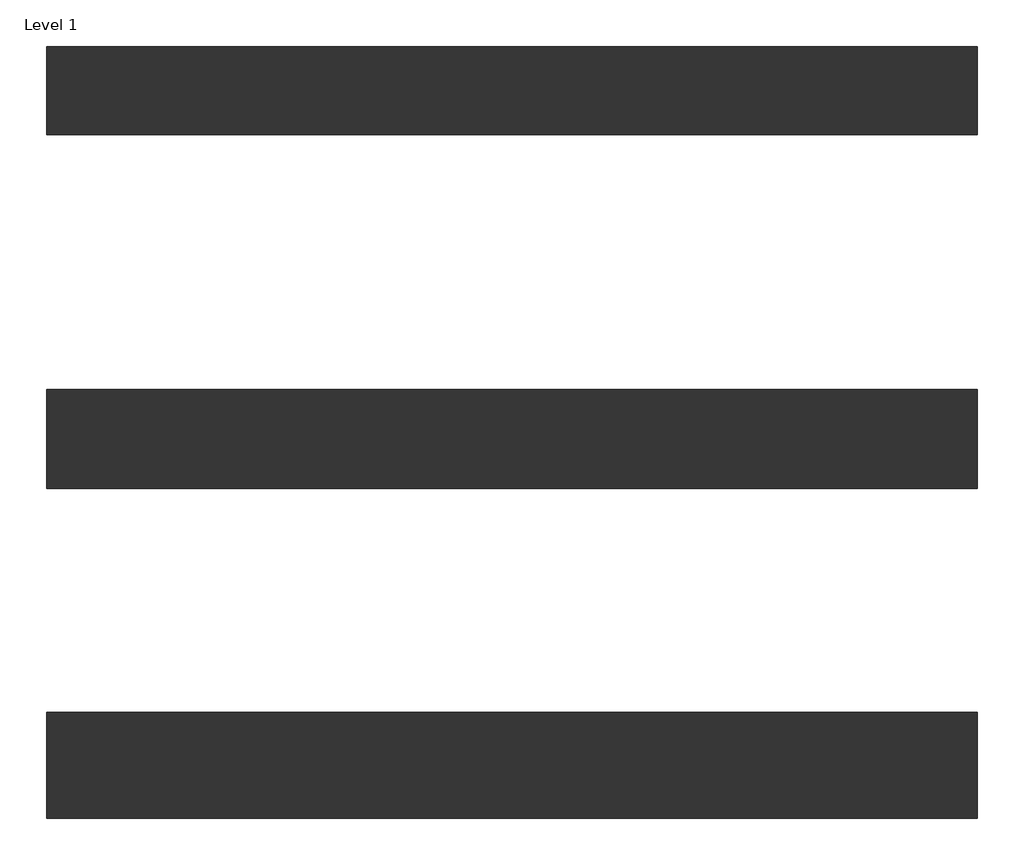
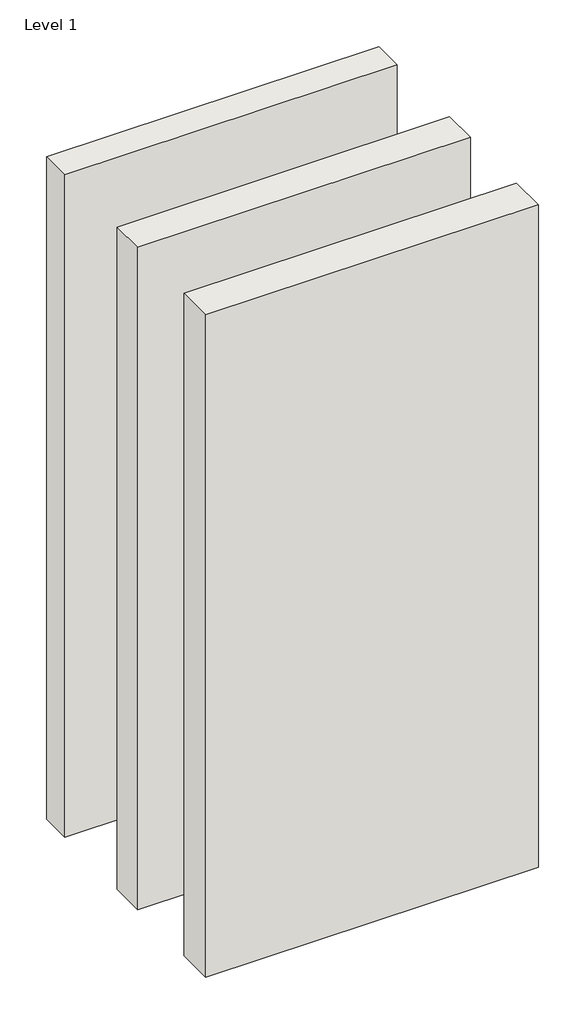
# One storey: 3 walls.
"""IFC4 building model written with IfcOpenShell, lengths in millimetres."""

from ifc_helpers import new_model, si_unit, origin, origin_with_axes, place, context, project, spatial, polyline, outline, extrude, element, save

model = new_model("IFC4")

# Units and contexts
model_context = context("Model", 3, world=origin())
ifc_project = project(units=[si_unit("LENGTHUNIT", "METRE", prefix="MILLI")], contexts=[model_context])

# Site, building, storey
site = spatial("IfcSite", under=ifc_project)
building = spatial("IfcBuilding", under=site)
storey = spatial("IfcBuildingStorey", under=building, Name="Level 1", Elevation=0.0)

# Walls
placement = place(None, origin())
element("IfcWall", 1, ObjectType="Interior-Steel Frame-SecurityWall-CSR1640-180mm", at=placement, inside=storey, context=model_context, shape_type="SweptSolid", body=[
    extrude(outline(polyline([(-689.6552429, -567.2346677), (1210.3447571, -567.2346677), (1210.3447571, -747.2346677), (-689.6552429, -747.2346677), (-689.6552429, -567.2346677)])), origin_with_axes(), (0.0, 0.0, 1.0), 4000.0),
])
element("IfcWall", 2, ObjectType="Interior-Steel Frame-SecurityWall-CSR295-203mm", at=placement, inside=storey, context=model_context, shape_type="SweptSolid", body=[
    extrude(outline(polyline([(-689.6552429, -1267.2346677), (1210.3447571, -1267.2346677), (1210.3447571, -1470.2346677), (-689.6552429, -1470.2346677), (-689.6552429, -1267.2346677)])), origin_with_axes(), (0.0, 0.0, 1.0), 4000.0),
])
element("IfcWall", 3, ObjectType="Interior-Steel Frame-SecurityWall-CSR1640-216mm", at=placement, inside=storey, context=model_context, shape_type="SweptSolid", body=[
    extrude(outline(polyline([(-689.6552429, -1927.2346677), (1210.3447571, -1927.2346677), (1210.3447571, -2143.2346677), (-689.6552429, -2143.2346677), (-689.6552429, -1927.2346677)])), origin_with_axes(), (0.0, 0.0, 1.0), 4000.0),
])

save(model, "model.ifc")
